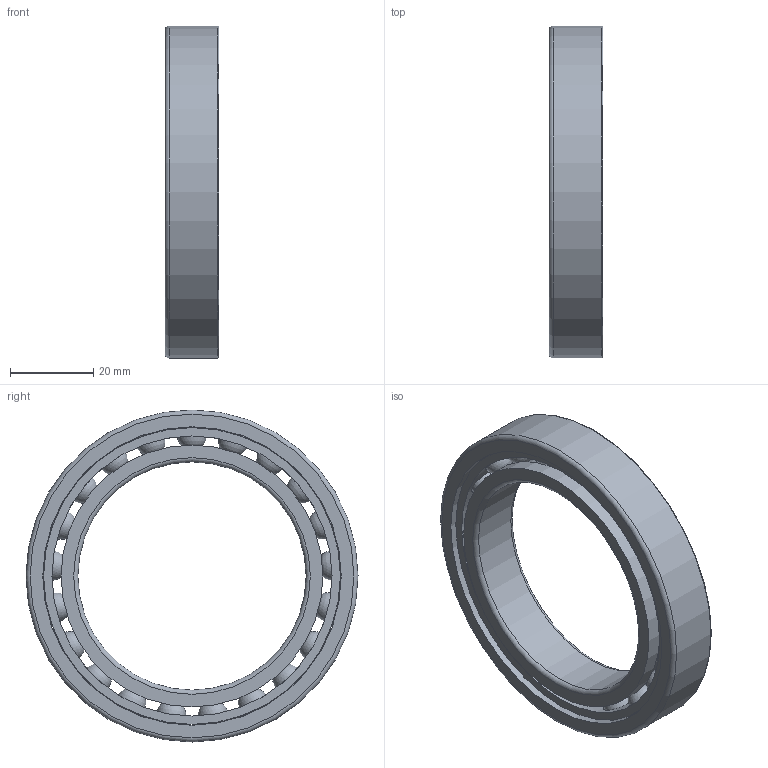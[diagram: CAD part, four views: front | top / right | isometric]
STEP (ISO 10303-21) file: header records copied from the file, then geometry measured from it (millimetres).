
FILE_DESCRIPTION(/* description */ (''),/* implementation_level */ '2;1');
FILE_NAME(/* name */ 'S_61911_TA.step',/* time_stamp */ '2013-03-06T14:48:37+01:00',/* author */ ('Marian'),/* organization */ ('GMN'),/* preprocessor_version */ 'ST-DEVELOPER v11',/* originating_system */ 'SIEMENS UGS NX 6.0',/* authorisation */ '');
FILE_SCHEMA (('CONFIG_CONTROL_DESIGN'));
Length unit declared in the file: millimetre
Products named in the file (1): S_61911_TA
Bounding box: 13 x 80 x 80 mm (x, y, z)
Volume: 25146.3 mm3; surface area: 21979.1 mm2
Topology: 24 solids, 24 shells, 62 faces, 160 edges, 104 vertices
Faces by surface type: cylinder 28, sphere 21, torus 6, plane 6, cone 1
Full cylindrical faces by diameter (mm): 7.344 x21, 55 x1, 63.1 x2, 67.484 x1, 71.5 x1, 71.9 x1, 80 x1
Entity records: 3732 total; most frequent: CARTESIAN_POINT 2602, DIRECTION 166, FACE_BOUND 145, EDGE_LOOP 124, ORIENTED_EDGE 124, VERTEX_POINT 83, AXIS2_PLACEMENT_3D 83, EDGE_CURVE 62
